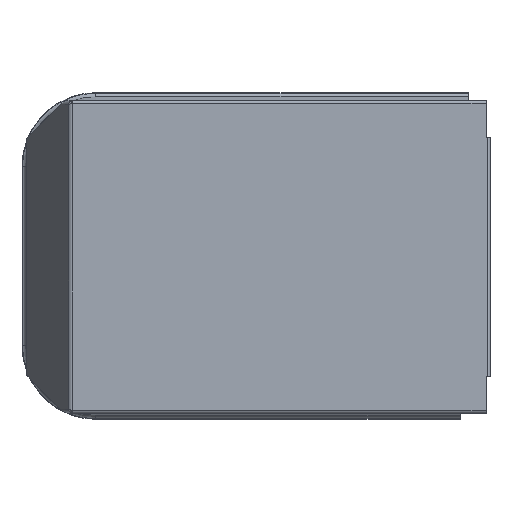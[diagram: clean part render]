
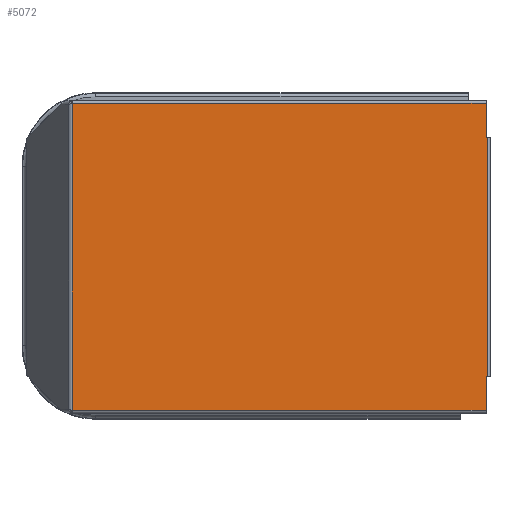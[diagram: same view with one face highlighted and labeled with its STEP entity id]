
A CAD part, left-side view. The second image highlights one B-rep face of the part: STEP entity #5072.
In plain terms, the highlighted planar face has unit normal (-1, 0, 0) as drawn and (0, 0, 1) by its records, which use the part's own axes.
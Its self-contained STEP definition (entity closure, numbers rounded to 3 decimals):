
#125 = AXIS2_PLACEMENT_3D ( 'NONE', #1934, #3962, #2263 ) ;
#142 = PLANE ( 'NONE',  #125 ) ;
#166 = LINE ( 'NONE', #1885, #4774 ) ;
#176 = VERTEX_POINT ( 'NONE', #796 ) ;
#248 = LINE ( 'NONE', #2460, #4068 ) ;
#296 = VERTEX_POINT ( 'NONE', #5274 ) ;
#325 = DIRECTION ( 'NONE',  ( 1., 0., 0. ) ) ;
#363 = CARTESIAN_POINT ( 'NONE',  ( 77., 100.565, 0.5 ) ) ;
#449 = CARTESIAN_POINT ( 'NONE',  ( 77., 100.463, 0.5 ) ) ;
#459 = DIRECTION ( 'NONE',  ( -1., 0., 0. ) ) ;
#466 = VERTEX_POINT ( 'NONE', #4689 ) ;
#548 = CARTESIAN_POINT ( 'NONE',  ( -76.977, 100.663, 0.5 ) ) ;
#568 = VECTOR ( 'NONE', #2448, 1000. ) ;
#712 = ORIENTED_EDGE ( 'NONE', *, *, #4904, .F. ) ;
#715 = LINE ( 'NONE', #1228, #781 ) ;
#754 = VERTEX_POINT ( 'NONE', #4937 ) ;
#781 = VECTOR ( 'NONE', #325, 1000. ) ;
#786 = CARTESIAN_POINT ( 'NONE',  ( -60., -107., 0.5 ) ) ;
#796 = CARTESIAN_POINT ( 'NONE',  ( -60., -107.5, 0.5 ) ) ;
#797 = CARTESIAN_POINT ( 'NONE',  ( 77., -107., 0.5 ) ) ;
#805 = ORIENTED_EDGE ( 'NONE', *, *, #4972, .F. ) ;
#834 = VECTOR ( 'NONE', #5096, 1000. ) ;
#843 = VECTOR ( 'NONE', #459, 1000. ) ;
#845 = VERTEX_POINT ( 'NONE', #786 ) ;
#924 = ORIENTED_EDGE ( 'NONE', *, *, #4220, .T. ) ;
#970 = ORIENTED_EDGE ( 'NONE', *, *, #3590, .T. ) ;
#980 = VERTEX_POINT ( 'NONE', #2596 ) ;
#1036 = CARTESIAN_POINT ( 'NONE',  ( -60., -102., 0.5 ) ) ;
#1065 = DIRECTION ( 'NONE',  ( 0., -1., 0. ) ) ;
#1132 = EDGE_CURVE ( 'NONE', #176, #296, #715, .T. ) ;
#1167 = CARTESIAN_POINT ( 'NONE',  ( -78.5, -107., 0.5 ) ) ;
#1225 =( BOUNDED_CURVE ( )  B_SPLINE_CURVE ( 3, ( #1877, #548, #2261, #1458 ),
 .UNSPECIFIED., .F., .F. ) 
 B_SPLINE_CURVE_WITH_KNOTS ( ( 4, 4 ),
 ( 1.047, 1.571 ),
 .UNSPECIFIED. ) 
 CURVE ( )  GEOMETRIC_REPRESENTATION_ITEM ( )  RATIONAL_B_SPLINE_CURVE ( ( 1., 0.977, 0.977, 1. ) ) 
 REPRESENTATION_ITEM ( '' )  );
#1228 = CARTESIAN_POINT ( 'NONE',  ( -78.5, -107.5, 0.5 ) ) ;
#1244 = VERTEX_POINT ( 'NONE', #797 ) ;
#1411 = CARTESIAN_POINT ( 'NONE',  ( 60., -102., 0.5 ) ) ;
#1458 = CARTESIAN_POINT ( 'NONE',  ( -77., 100.463, 0.5 ) ) ;
#1514 = LINE ( 'NONE', #1167, #568 ) ;
#1575 = DIRECTION ( 'NONE',  ( 0., -1., 0. ) ) ;
#1649 = LINE ( 'NONE', #2890, #843 ) ;
#1857 = FACE_OUTER_BOUND ( 'NONE', #5323, .T. ) ;
#1877 = CARTESIAN_POINT ( 'NONE',  ( -76.933, 100.751, 0.5 ) ) ;
#1885 = CARTESIAN_POINT ( 'NONE',  ( -78.5, -107., 0.5 ) ) ;
#1934 = CARTESIAN_POINT ( 'NONE',  ( -78.5, 100.751, 0.5 ) ) ;
#2067 = ORIENTED_EDGE ( 'NONE', *, *, #4968, .T. ) ;
#2101 = LINE ( 'NONE', #3852, #834 ) ;
#2121 = EDGE_CURVE ( 'NONE', #3942, #2242, #2563, .T. ) ;
#2137 = CARTESIAN_POINT ( 'NONE',  ( -76.933, 100.751, 0.5 ) ) ;
#2242 = VERTEX_POINT ( 'NONE', #3945 ) ;
#2252 = EDGE_CURVE ( 'NONE', #466, #845, #166, .T. ) ;
#2261 = CARTESIAN_POINT ( 'NONE',  ( -77., 100.565, 0.5 ) ) ;
#2263 = DIRECTION ( 'NONE',  ( 0., -1., 0. ) ) ;
#2305 = ORIENTED_EDGE ( 'NONE', *, *, #2252, .T. ) ;
#2448 = DIRECTION ( 'NONE',  ( 1., 0., 0. ) ) ;
#2460 = CARTESIAN_POINT ( 'NONE',  ( -77., 104.624, 0.5 ) ) ;
#2563 =( BOUNDED_CURVE ( )  B_SPLINE_CURVE ( 3, ( #449, #363, #3861, #3045 ),
 .UNSPECIFIED., .F., .F. ) 
 B_SPLINE_CURVE_WITH_KNOTS ( ( 4, 4 ),
 ( 1.571, 2.094 ),
 .UNSPECIFIED. ) 
 CURVE ( )  GEOMETRIC_REPRESENTATION_ITEM ( )  RATIONAL_B_SPLINE_CURVE ( ( 1., 0.977, 0.977, 1. ) ) 
 REPRESENTATION_ITEM ( '' )  );
#2596 = CARTESIAN_POINT ( 'NONE',  ( -77., 100.463, 0.5 ) ) ;
#2890 = CARTESIAN_POINT ( 'NONE',  ( -78.5, 100.751, 0.5 ) ) ;
#3045 = CARTESIAN_POINT ( 'NONE',  ( 76.933, 100.751, 0.5 ) ) ;
#3120 = CARTESIAN_POINT ( 'NONE',  ( 77., 100.463, 0.5 ) ) ;
#3177 = DIRECTION ( 'NONE',  ( 0., -1., 0. ) ) ;
#3438 = ORIENTED_EDGE ( 'NONE', *, *, #2121, .T. ) ;
#3590 = EDGE_CURVE ( 'NONE', #980, #466, #248, .T. ) ;
#3852 = CARTESIAN_POINT ( 'NONE',  ( 77., 104.624, 0.5 ) ) ;
#3861 = CARTESIAN_POINT ( 'NONE',  ( 76.977, 100.663, 0.5 ) ) ;
#3896 = EDGE_CURVE ( 'NONE', #4519, #980, #1225, .T. ) ;
#3939 = ORIENTED_EDGE ( 'NONE', *, *, #1132, .T. ) ;
#3942 = VERTEX_POINT ( 'NONE', #3120 ) ;
#3945 = CARTESIAN_POINT ( 'NONE',  ( 76.933, 100.751, 0.5 ) ) ;
#3962 = DIRECTION ( 'NONE',  ( 0., 0., 1. ) ) ;
#3976 = EDGE_CURVE ( 'NONE', #754, #1244, #1514, .T. ) ;
#4068 = VECTOR ( 'NONE', #1575, 1000. ) ;
#4220 = EDGE_CURVE ( 'NONE', #2242, #4519, #1649, .T. ) ;
#4316 = LINE ( 'NONE', #1036, #5372 ) ;
#4325 = DIRECTION ( 'NONE',  ( 1., 0., 0. ) ) ;
#4353 = ORIENTED_EDGE ( 'NONE', *, *, #3896, .T. ) ;
#4519 = VERTEX_POINT ( 'NONE', #2137 ) ;
#4689 = CARTESIAN_POINT ( 'NONE',  ( -77., -107., 0.5 ) ) ;
#4755 = ORIENTED_EDGE ( 'NONE', *, *, #3976, .T. ) ;
#4774 = VECTOR ( 'NONE', #4325, 1000. ) ;
#4817 = LINE ( 'NONE', #1411, #4840 ) ;
#4840 = VECTOR ( 'NONE', #3177, 1000. ) ;
#4904 = EDGE_CURVE ( 'NONE', #3942, #1244, #2101, .T. ) ;
#4937 = CARTESIAN_POINT ( 'NONE',  ( 60., -107., 0.5 ) ) ;
#4968 = EDGE_CURVE ( 'NONE', #845, #176, #4316, .T. ) ;
#4972 = EDGE_CURVE ( 'NONE', #754, #296, #4817, .T. ) ;
#5072 = ADVANCED_FACE ( 'NONE', ( #1857 ), #142, .T. ) ;
#5096 = DIRECTION ( 'NONE',  ( 0., -1., 0. ) ) ;
#5274 = CARTESIAN_POINT ( 'NONE',  ( 60., -107.5, 0.5 ) ) ;
#5323 = EDGE_LOOP ( 'NONE', ( #712, #3438, #924, #4353, #970, #2305, #2067, #3939, #805, #4755 ) ) ;
#5372 = VECTOR ( 'NONE', #1065, 1000. ) ;
